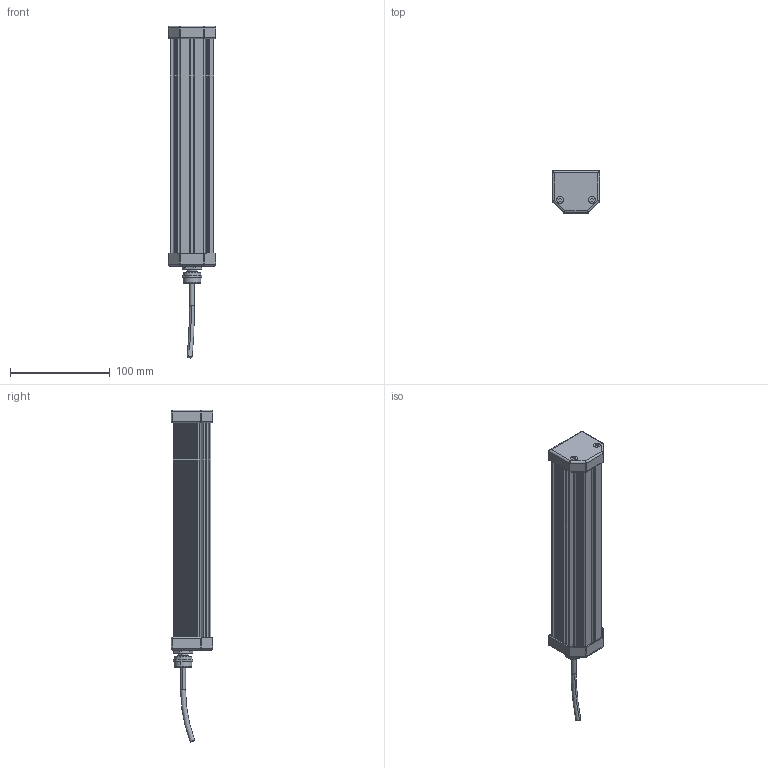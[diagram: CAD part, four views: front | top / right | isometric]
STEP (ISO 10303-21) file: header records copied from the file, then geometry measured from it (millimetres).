
FILE_DESCRIPTION (( 'STEP AP214' ), '1' );
FILE_NAME ('Stableuchte_230mm.STEP', '2021-09-08T07:54:22', ( '' ), ( '' ), 'SwSTEP 2.0', 'SolidWorks 2021', '' );
FILE_SCHEMA (( 'AUTOMOTIVE_DESIGN' ));
Length unit declared in the file: millimetre
Products named in the file (7): Stableuchte_Endkappe_mit_Gewinde; Stableuchte_Endkappe_anderes_Ende; Stableuchte_230r; Kabelanbindung; Schraube_Lampe; Stableuchte_230mm; Scheibe2
Assembly tree (9 placements, depth 2):
  Stableuchte_230mm
    Stableuchte_230r
    Scheibe2
    Stableuchte_Endkappe_mit_Gewinde
    Stableuchte_Endkappe_anderes_Ende
    Kabelanbindung
    Schraube_Lampe  x4
Bounding box: 48 x 42 x 333.24 mm (x, y, z)
Volume: 252802.1 mm3; surface area: 120931.1 mm2
Topology: 9 solids, 9 shells, 512 faces, 1394 edges, 862 vertices
Faces by surface type: cylinder 227, plane 219, torus 26, cone 16, bspline 16, sphere 8
Entity records: 15849 total; most frequent: CARTESIAN_POINT 3135, DIRECTION 2588, ORIENTED_EDGE 2456, EDGE_CURVE 1228, AXIS2_PLACEMENT_3D 939, VERTEX_POINT 766, LINE 710, VECTOR 710
